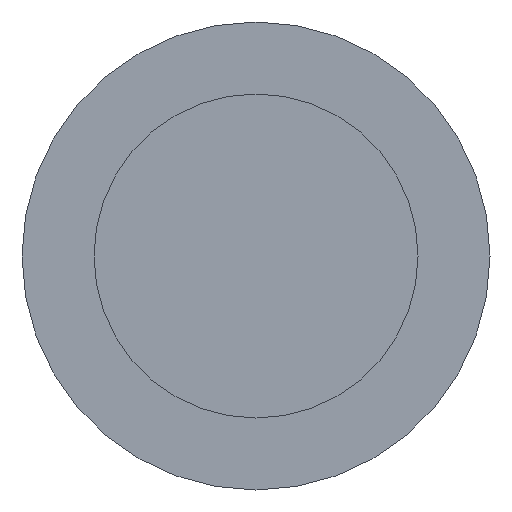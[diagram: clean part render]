
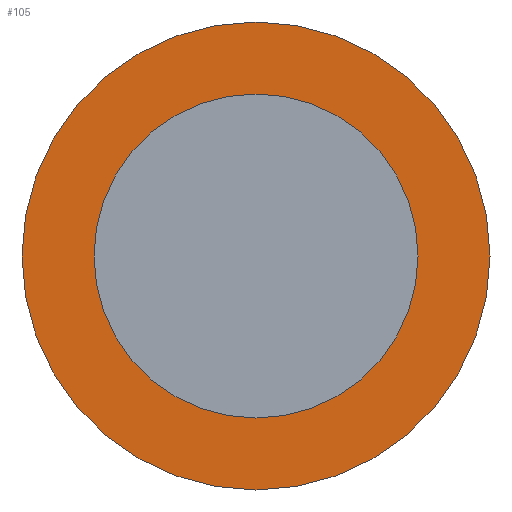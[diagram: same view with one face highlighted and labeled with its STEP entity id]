
A CAD part, front view. The second image highlights one B-rep face of the part: STEP entity #105.
In plain terms, the highlighted planar face has unit normal (0, -1, 0).
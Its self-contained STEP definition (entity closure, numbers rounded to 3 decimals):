
#22 = VERTEX_POINT('',#23);
#23 = CARTESIAN_POINT('',(26.,31.425,60.7));
#32 = CYLINDRICAL_SURFACE('',#33,26.);
#33 = AXIS2_PLACEMENT_3D('',#34,#35,#36);
#34 = CARTESIAN_POINT('',(0.,31.425,60.7));
#35 = DIRECTION('',(0.,-1.,0.));
#36 = DIRECTION('',(1.,0.,0.));
#79 = EDGE_CURVE('',#22,#22,#80,.T.);
#80 = SURFACE_CURVE('',#81,(#86,#93),.PCURVE_S1.);
#81 = CIRCLE('',#82,26.);
#82 = AXIS2_PLACEMENT_3D('',#83,#84,#85);
#83 = CARTESIAN_POINT('',(0.,31.425,60.7));
#84 = DIRECTION('',(0.,-1.,0.));
#85 = DIRECTION('',(1.,0.,0.));
#86 = PCURVE('',#32,#87);
#87 = DEFINITIONAL_REPRESENTATION('',(#88),#92);
#88 = LINE('',#89,#90);
#89 = CARTESIAN_POINT('',(0.,0.));
#90 = VECTOR('',#91,1.);
#91 = DIRECTION('',(1.,0.));
#92 = ( GEOMETRIC_REPRESENTATION_CONTEXT(2) 
PARAMETRIC_REPRESENTATION_CONTEXT() REPRESENTATION_CONTEXT('2D SPACE',''
  ) );
#93 = PCURVE('',#94,#99);
#94 = PLANE('',#95);
#95 = AXIS2_PLACEMENT_3D('',#96,#97,#98);
#96 = CARTESIAN_POINT('',(0.,31.425,60.7));
#97 = DIRECTION('',(-0.,-1.,-0.));
#98 = DIRECTION('',(0.,0.,-1.));
#99 = DEFINITIONAL_REPRESENTATION('',(#100),#104);
#100 = CIRCLE('',#101,26.);
#101 = AXIS2_PLACEMENT_2D('',#102,#103);
#102 = CARTESIAN_POINT('',(0.,0.));
#103 = DIRECTION('',(0.,1.));
#104 = ( GEOMETRIC_REPRESENTATION_CONTEXT(2) 
PARAMETRIC_REPRESENTATION_CONTEXT() REPRESENTATION_CONTEXT('2D SPACE',''
  ) );
#105 = ADVANCED_FACE('',(#106,#109),#94,.T.);
#106 = FACE_BOUND('',#107,.T.);
#107 = EDGE_LOOP('',(#108));
#108 = ORIENTED_EDGE('',*,*,#79,.T.);
#109 = FACE_BOUND('',#110,.T.);
#110 = EDGE_LOOP('',(#111));
#111 = ORIENTED_EDGE('',*,*,#112,.F.);
#112 = EDGE_CURVE('',#113,#113,#115,.T.);
#113 = VERTEX_POINT('',#114);
#114 = CARTESIAN_POINT('',(18.,31.425,60.7));
#115 = SURFACE_CURVE('',#116,(#121,#128),.PCURVE_S1.);
#116 = CIRCLE('',#117,18.);
#117 = AXIS2_PLACEMENT_3D('',#118,#119,#120);
#118 = CARTESIAN_POINT('',(0.,31.425,60.7));
#119 = DIRECTION('',(0.,-1.,0.));
#120 = DIRECTION('',(1.,0.,0.));
#121 = PCURVE('',#94,#122);
#122 = DEFINITIONAL_REPRESENTATION('',(#123),#127);
#123 = CIRCLE('',#124,18.);
#124 = AXIS2_PLACEMENT_2D('',#125,#126);
#125 = CARTESIAN_POINT('',(0.,0.));
#126 = DIRECTION('',(0.,1.));
#127 = ( GEOMETRIC_REPRESENTATION_CONTEXT(2) 
PARAMETRIC_REPRESENTATION_CONTEXT() REPRESENTATION_CONTEXT('2D SPACE',''
  ) );
#128 = PCURVE('',#129,#134);
#129 = CYLINDRICAL_SURFACE('',#130,18.);
#130 = AXIS2_PLACEMENT_3D('',#131,#132,#133);
#131 = CARTESIAN_POINT('',(0.,8.825,60.7));
#132 = DIRECTION('',(0.,-1.,0.));
#133 = DIRECTION('',(1.,0.,0.));
#134 = DEFINITIONAL_REPRESENTATION('',(#135),#139);
#135 = LINE('',#136,#137);
#136 = CARTESIAN_POINT('',(0.,-22.6));
#137 = VECTOR('',#138,1.);
#138 = DIRECTION('',(1.,0.));
#139 = ( GEOMETRIC_REPRESENTATION_CONTEXT(2) 
PARAMETRIC_REPRESENTATION_CONTEXT() REPRESENTATION_CONTEXT('2D SPACE',''
  ) );
